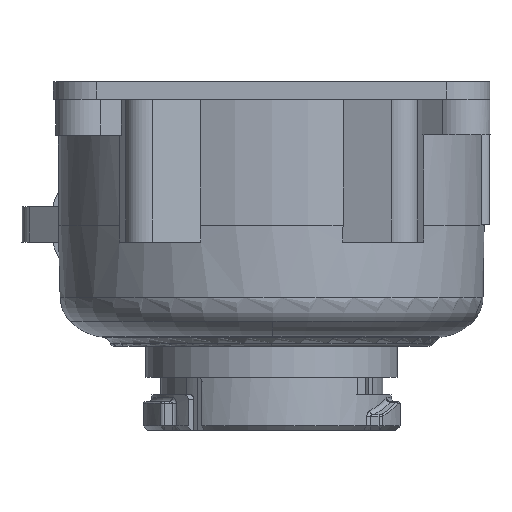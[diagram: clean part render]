
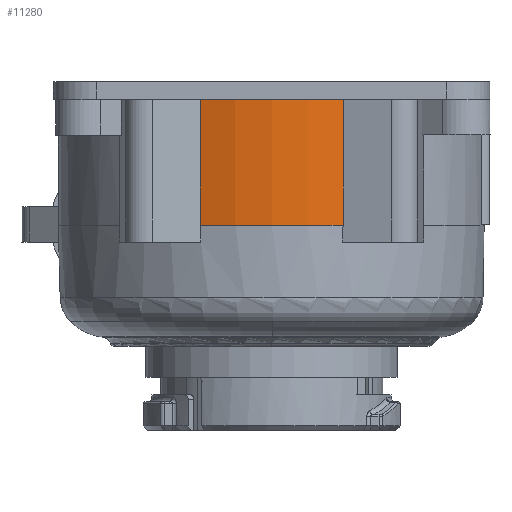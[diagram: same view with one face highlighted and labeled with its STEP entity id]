
A CAD part, left-side view. The second image highlights one B-rep face of the part: STEP entity #11280.
In plain terms, the highlighted cylindrical face has radius 24.05 mm (diameter 48.1 mm), a partial arc.
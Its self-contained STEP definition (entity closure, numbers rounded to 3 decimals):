
#1041=CARTESIAN_POINT('',(0.,0.,8.5));
#1042=DIRECTION('',(0.,0.,1.));
#1043=DIRECTION('',(-0.942,0.335,0.));
#1044=AXIS2_PLACEMENT_3D('',#1041,#1042,#1043);
#1192=DIRECTION('',(0.,0.,-1.));
#1193=VECTOR('',#1192,14.2);
#1194=CARTESIAN_POINT('',(-22.661,-8.055,22.7));
#1195=LINE('',#1194,#1193);
#1199=DIRECTION('',(0.,0.,1.));
#1200=VECTOR('',#1199,14.2);
#1201=CARTESIAN_POINT('',(-22.66,8.053,8.5));
#1202=LINE('',#1201,#1200);
#1206=CARTESIAN_POINT('',(0.,0.,22.7));
#1207=DIRECTION('',(0.,0.,1.));
#1208=DIRECTION('',(-0.942,0.335,0.));
#1209=AXIS2_PLACEMENT_3D('',#1206,#1207,#1208);
#8899=CARTESIAN_POINT('',(-22.661,-8.055,22.7));
#8901=VERTEX_POINT('',#8899);
#8902=CARTESIAN_POINT('',(-22.661,8.055,22.7));
#8904=VERTEX_POINT('',#8902);
#10142=CARTESIAN_POINT('',(-22.659,8.054,8.5));
#10143=CARTESIAN_POINT('',(-22.659,-8.054,8.5));
#10144=VERTEX_POINT('',#10142);
#10145=VERTEX_POINT('',#10143);
#11267=CARTESIAN_POINT('',(0.,0.,25.3));
#11268=DIRECTION('',(0.,0.,-1.));
#11269=DIRECTION('',(-1.,0.,0.));
#11270=AXIS2_PLACEMENT_3D('',#11267,#11268,#11269);
#11271=CYLINDRICAL_SURFACE('',#11270,24.05);
#11273=ORIENTED_EDGE('',*,*,#11272,.T.);
#11274=ORIENTED_EDGE('',*,*,#11154,.F.);
#11275=ORIENTED_EDGE('',*,*,#11256,.T.);
#11277=ORIENTED_EDGE('',*,*,#11276,.T.);
#11278=EDGE_LOOP('',(#11273,#11274,#11275,#11277));
#11279=FACE_OUTER_BOUND('',#11278,.F.);
#11280=ADVANCED_FACE('',(#11279),#11271,.T.);
#1045=CIRCLE('',#1044,24.048);
#1210=CIRCLE('',#1209,24.05);
#11154=EDGE_CURVE('',#10144,#10145,#1045,.T.);
#11256=EDGE_CURVE('',#10144,#8904,#1202,.T.);
#11272=EDGE_CURVE('',#8901,#10145,#1195,.T.);
#11276=EDGE_CURVE('',#8904,#8901,#1210,.T.);
